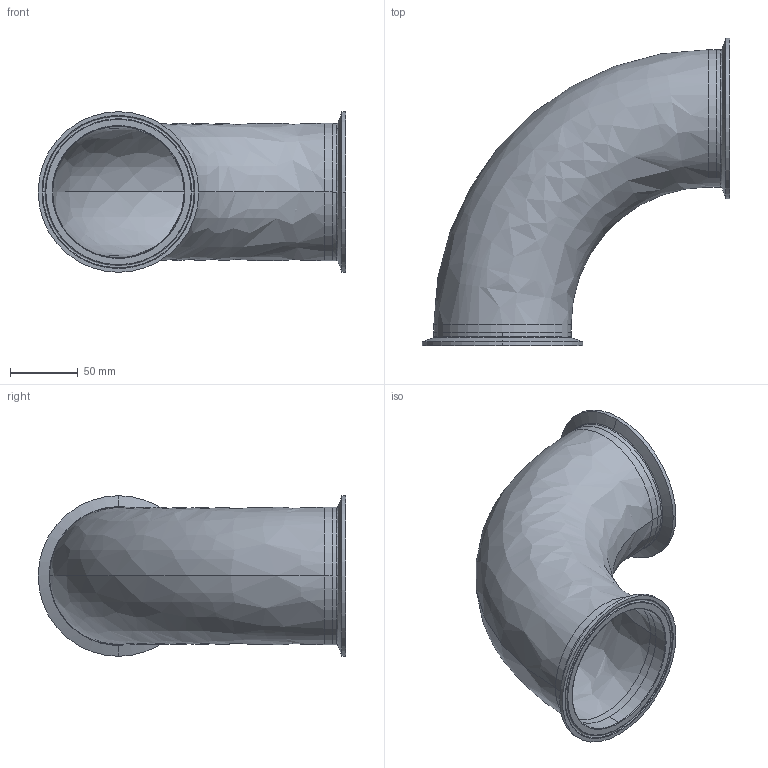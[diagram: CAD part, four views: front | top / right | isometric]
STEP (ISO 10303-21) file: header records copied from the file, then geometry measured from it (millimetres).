
FILE_DESCRIPTION (( 'STEP AP214' ), '1' );
FILE_NAME ('TEG2C6L4.0-...STEP', '2016-05-22T10:50:02', ( 'eran' ), ( '' ), 'SwSTEP 2.0', 'SolidWorks 2016', '' );
FILE_SCHEMA (( 'AUTOMOTIVE_DESIGN' ));
Length unit declared in the file: millimetre
Products named in the file (1): TEG2C6L4.0-..
Bounding box: 227.76 x 227.76 x 118.92 mm (x, y, z)
Volume: 204237.3 mm3; surface area: 184335 mm2
Topology: 3 solids, 3 shells, 64 faces, 158 edges, 102 vertices
Faces by surface type: bspline 24, cylinder 20, cone 12, plane 8
Entity records: 3340 total; most frequent: CARTESIAN_POINT 1769, DIRECTION 342, ORIENTED_EDGE 316, EDGE_CURVE 158, AXIS2_PLACEMENT_3D 155, CIRCLE 114, VERTEX_POINT 102, EDGE_LOOP 72
